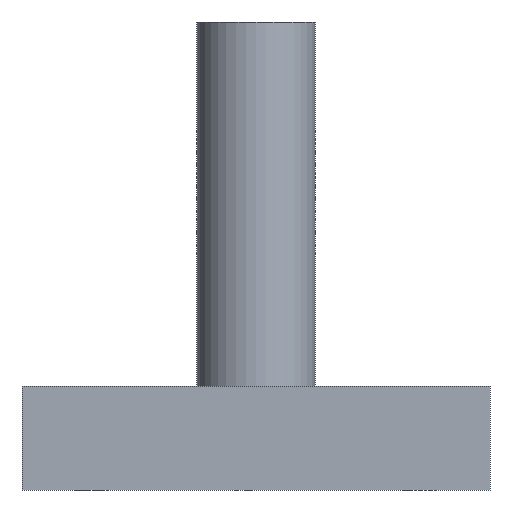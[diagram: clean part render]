
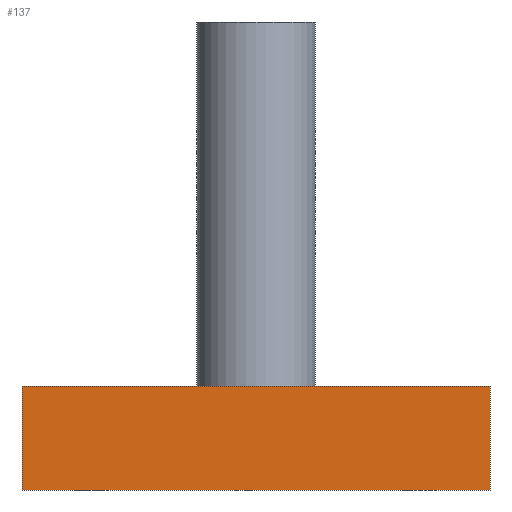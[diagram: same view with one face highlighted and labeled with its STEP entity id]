
A CAD part, front view. The second image highlights one B-rep face of the part: STEP entity #137.
In plain terms, the highlighted planar face has unit normal (0, -1, 0).
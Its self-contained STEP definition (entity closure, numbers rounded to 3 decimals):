
#21 = EDGE_CURVE('',#22,#24,#26,.T.);
#22 = VERTEX_POINT('',#23);
#23 = CARTESIAN_POINT('',(-22.5,-17.15,-5.));
#24 = VERTEX_POINT('',#25);
#25 = CARTESIAN_POINT('',(-22.5,-17.15,5.));
#26 = SURFACE_CURVE('',#27,(#31,#43),.PCURVE_S1.);
#27 = LINE('',#28,#29);
#28 = CARTESIAN_POINT('',(-22.5,-17.15,-5.));
#29 = VECTOR('',#30,1.);
#30 = DIRECTION('',(0.,0.,1.));
#31 = PCURVE('',#32,#37);
#32 = PLANE('',#33);
#33 = AXIS2_PLACEMENT_3D('',#34,#35,#36);
#34 = CARTESIAN_POINT('',(-22.5,-17.15,-5.));
#35 = DIRECTION('',(1.,0.,0.));
#36 = DIRECTION('',(0.,0.,1.));
#37 = DEFINITIONAL_REPRESENTATION('',(#38),#42);
#38 = LINE('',#39,#40);
#39 = CARTESIAN_POINT('',(0.,0.));
#40 = VECTOR('',#41,1.);
#41 = DIRECTION('',(1.,0.));
#42 = ( GEOMETRIC_REPRESENTATION_CONTEXT(2) 
PARAMETRIC_REPRESENTATION_CONTEXT() REPRESENTATION_CONTEXT('2D SPACE',''
  ) );
#43 = PCURVE('',#44,#49);
#44 = PLANE('',#45);
#45 = AXIS2_PLACEMENT_3D('',#46,#47,#48);
#46 = CARTESIAN_POINT('',(-22.5,-17.15,-5.));
#47 = DIRECTION('',(0.,1.,0.));
#48 = DIRECTION('',(0.,0.,1.));
#49 = DEFINITIONAL_REPRESENTATION('',(#50),#54);
#50 = LINE('',#51,#52);
#51 = CARTESIAN_POINT('',(0.,0.));
#52 = VECTOR('',#53,1.);
#53 = DIRECTION('',(1.,0.));
#54 = ( GEOMETRIC_REPRESENTATION_CONTEXT(2) 
PARAMETRIC_REPRESENTATION_CONTEXT() REPRESENTATION_CONTEXT('2D SPACE',''
  ) );
#72 = PLANE('',#73);
#73 = AXIS2_PLACEMENT_3D('',#74,#75,#76);
#74 = CARTESIAN_POINT('',(-22.5,-17.15,-5.));
#75 = DIRECTION('',(0.,0.,1.));
#76 = DIRECTION('',(1.,0.,0.));
#126 = PLANE('',#127);
#127 = AXIS2_PLACEMENT_3D('',#128,#129,#130);
#128 = CARTESIAN_POINT('',(-22.5,-17.15,5.));
#129 = DIRECTION('',(0.,0.,1.));
#130 = DIRECTION('',(1.,0.,0.));
#137 = ADVANCED_FACE('',(#138),#44,.F.);
#138 = FACE_BOUND('',#139,.F.);
#139 = EDGE_LOOP('',(#140,#163,#164,#187));
#140 = ORIENTED_EDGE('',*,*,#141,.F.);
#141 = EDGE_CURVE('',#22,#142,#144,.T.);
#142 = VERTEX_POINT('',#143);
#143 = CARTESIAN_POINT('',(22.5,-17.15,-5.));
#144 = SURFACE_CURVE('',#145,(#149,#156),.PCURVE_S1.);
#145 = LINE('',#146,#147);
#146 = CARTESIAN_POINT('',(-22.5,-17.15,-5.));
#147 = VECTOR('',#148,1.);
#148 = DIRECTION('',(1.,0.,0.));
#149 = PCURVE('',#44,#150);
#150 = DEFINITIONAL_REPRESENTATION('',(#151),#155);
#151 = LINE('',#152,#153);
#152 = CARTESIAN_POINT('',(0.,0.));
#153 = VECTOR('',#154,1.);
#154 = DIRECTION('',(0.,1.));
#155 = ( GEOMETRIC_REPRESENTATION_CONTEXT(2) 
PARAMETRIC_REPRESENTATION_CONTEXT() REPRESENTATION_CONTEXT('2D SPACE',''
  ) );
#156 = PCURVE('',#72,#157);
#157 = DEFINITIONAL_REPRESENTATION('',(#158),#162);
#158 = LINE('',#159,#160);
#159 = CARTESIAN_POINT('',(0.,0.));
#160 = VECTOR('',#161,1.);
#161 = DIRECTION('',(1.,0.));
#162 = ( GEOMETRIC_REPRESENTATION_CONTEXT(2) 
PARAMETRIC_REPRESENTATION_CONTEXT() REPRESENTATION_CONTEXT('2D SPACE',''
  ) );
#163 = ORIENTED_EDGE('',*,*,#21,.T.);
#164 = ORIENTED_EDGE('',*,*,#165,.T.);
#165 = EDGE_CURVE('',#24,#166,#168,.T.);
#166 = VERTEX_POINT('',#167);
#167 = CARTESIAN_POINT('',(22.5,-17.15,5.));
#168 = SURFACE_CURVE('',#169,(#173,#180),.PCURVE_S1.);
#169 = LINE('',#170,#171);
#170 = CARTESIAN_POINT('',(-22.5,-17.15,5.));
#171 = VECTOR('',#172,1.);
#172 = DIRECTION('',(1.,0.,0.));
#173 = PCURVE('',#44,#174);
#174 = DEFINITIONAL_REPRESENTATION('',(#175),#179);
#175 = LINE('',#176,#177);
#176 = CARTESIAN_POINT('',(10.,0.));
#177 = VECTOR('',#178,1.);
#178 = DIRECTION('',(0.,1.));
#179 = ( GEOMETRIC_REPRESENTATION_CONTEXT(2) 
PARAMETRIC_REPRESENTATION_CONTEXT() REPRESENTATION_CONTEXT('2D SPACE',''
  ) );
#180 = PCURVE('',#126,#181);
#181 = DEFINITIONAL_REPRESENTATION('',(#182),#186);
#182 = LINE('',#183,#184);
#183 = CARTESIAN_POINT('',(0.,0.));
#184 = VECTOR('',#185,1.);
#185 = DIRECTION('',(1.,0.));
#186 = ( GEOMETRIC_REPRESENTATION_CONTEXT(2) 
PARAMETRIC_REPRESENTATION_CONTEXT() REPRESENTATION_CONTEXT('2D SPACE',''
  ) );
#187 = ORIENTED_EDGE('',*,*,#188,.F.);
#188 = EDGE_CURVE('',#142,#166,#189,.T.);
#189 = SURFACE_CURVE('',#190,(#194,#201),.PCURVE_S1.);
#190 = LINE('',#191,#192);
#191 = CARTESIAN_POINT('',(22.5,-17.15,-5.));
#192 = VECTOR('',#193,1.);
#193 = DIRECTION('',(0.,0.,1.));
#194 = PCURVE('',#44,#195);
#195 = DEFINITIONAL_REPRESENTATION('',(#196),#200);
#196 = LINE('',#197,#198);
#197 = CARTESIAN_POINT('',(0.,45.));
#198 = VECTOR('',#199,1.);
#199 = DIRECTION('',(1.,0.));
#200 = ( GEOMETRIC_REPRESENTATION_CONTEXT(2) 
PARAMETRIC_REPRESENTATION_CONTEXT() REPRESENTATION_CONTEXT('2D SPACE',''
  ) );
#201 = PCURVE('',#202,#207);
#202 = PLANE('',#203);
#203 = AXIS2_PLACEMENT_3D('',#204,#205,#206);
#204 = CARTESIAN_POINT('',(22.5,-17.15,-5.));
#205 = DIRECTION('',(1.,0.,0.));
#206 = DIRECTION('',(0.,0.,1.));
#207 = DEFINITIONAL_REPRESENTATION('',(#208),#212);
#208 = LINE('',#209,#210);
#209 = CARTESIAN_POINT('',(0.,0.));
#210 = VECTOR('',#211,1.);
#211 = DIRECTION('',(1.,0.));
#212 = ( GEOMETRIC_REPRESENTATION_CONTEXT(2) 
PARAMETRIC_REPRESENTATION_CONTEXT() REPRESENTATION_CONTEXT('2D SPACE',''
  ) );
